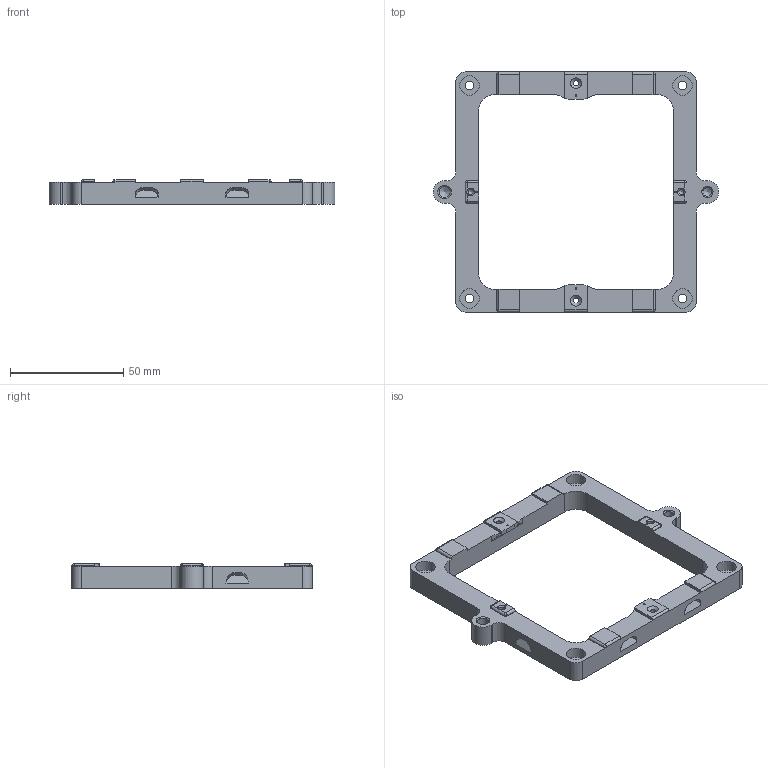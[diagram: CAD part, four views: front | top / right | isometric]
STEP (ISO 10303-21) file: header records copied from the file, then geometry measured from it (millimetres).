
FILE_DESCRIPTION(/* description */ ('Adjustment Frame'),/* implementation_level */ '2;1');
FILE_NAME(/* name */ 'Z:\Werkstatt Server\Projekte\Atlas\Entwicklung u. Konstruktion\Konstruktion\CAD Daten\ITkPixToolV2.0\Baremodule Jig\Step Files\ITPTv2.01.00.04.stp',/* time_stamp */ '2022-03-10T11:14:26+01:00',/* author */ ('Rüdiger Widera'),/* organization */ (''),/* preprocessor_version */ 'ST-DEVELOPER v18.1',/* originating_system */ 'Autodesk Inventor 2022',/* authorisation */ '');
FILE_SCHEMA (('AUTOMOTIVE_DESIGN { 1 0 10303 214 3 1 1 }'));
Length unit declared in the file: millimetre
Products named in the file (1): ITPTv2.01.00.04
Bounding box: 126 x 106 x 11 mm (x, y, z)
Volume: 38702.2 mm3; surface area: 17364 mm2
Topology: 1 solids, 1 shells, 181 faces, 483 edges, 308 vertices
Faces by surface type: plane 77, cylinder 70, cone 20, sphere 8, bspline 6
Full cylindrical faces by diameter (mm): 2.4 x2, 2.459 x2, 3.4 x2, 3.8 x4, 4 x1, 4.5 x2, 5 x1, 8.6 x4
Entity records: 6185 total; most frequent: CARTESIAN_POINT 1600, DIRECTION 943, ORIENTED_EDGE 938, EDGE_CURVE 469, AXIS2_PLACEMENT_3D 327, VERTEX_POINT 308, LINE 289, VECTOR 289
